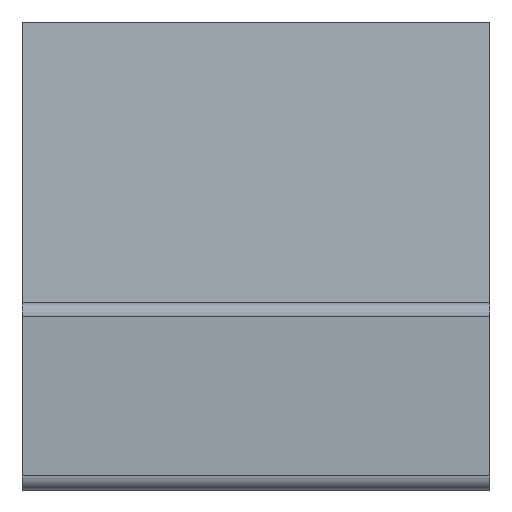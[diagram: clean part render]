
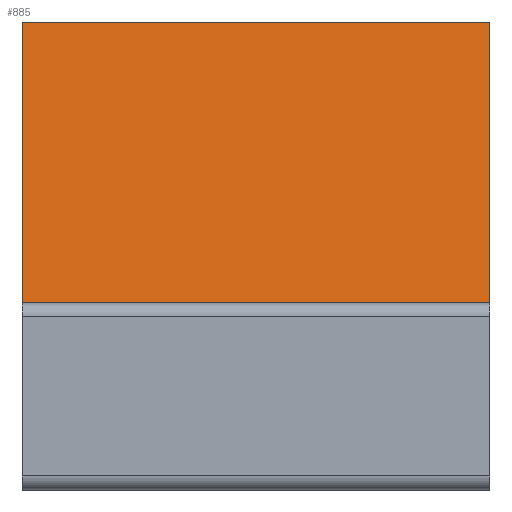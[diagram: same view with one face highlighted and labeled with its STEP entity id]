
A CAD part, left-side view. The second image highlights one B-rep face of the part: STEP entity #885.
In plain terms, the highlighted planar face has unit normal (-0.994, 0, 0.11).
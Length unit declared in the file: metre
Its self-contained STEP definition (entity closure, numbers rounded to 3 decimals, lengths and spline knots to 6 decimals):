
#238=ORIENTED_EDGE('',*,*,#388,.T.);
#239=ORIENTED_EDGE('',*,*,#389,.T.);
#240=ORIENTED_EDGE('',*,*,#376,.F.);
#241=ORIENTED_EDGE('',*,*,#373,.T.);
#242=ORIENTED_EDGE('',*,*,#375,.F.);
#243=ORIENTED_EDGE('',*,*,#385,.F.);
#373=EDGE_CURVE('',#402,#397,#554,.T.);
#375=EDGE_CURVE('',#463,#397,#556,.T.);
#376=EDGE_CURVE('',#402,#464,#557,.T.);
#385=EDGE_CURVE('',#468,#463,#566,.T.);
#388=EDGE_CURVE('',#468,#469,#569,.T.);
#389=EDGE_CURVE('',#469,#464,#570,.T.);
#397=VERTEX_POINT('',#1453);
#402=VERTEX_POINT('',#1467);
#463=VERTEX_POINT('',#1648);
#464=VERTEX_POINT('',#1652);
#468=VERTEX_POINT('',#1668);
#469=VERTEX_POINT('',#1675);
#554=LINE('',#1645,#657);
#556=LINE('',#1649,#659);
#557=LINE('',#1651,#660);
#566=LINE('',#1669,#669);
#569=LINE('',#1674,#672);
#570=LINE('',#1676,#673);
#657=VECTOR('',#1400,1.);
#659=VECTOR('',#1404,1.);
#660=VECTOR('',#1407,1.);
#669=VECTOR('',#1424,1.);
#672=VECTOR('',#1431,1.);
#673=VECTOR('',#1432,1.);
#718=EDGE_LOOP('',(#238,#239,#240,#241,#242,#243));
#763=FACE_BOUND('',#718,.T.);
#799=PLANE('',#1213);
#885=ADVANCED_FACE('',(#763),#799,.T.);
#1213=AXIS2_PLACEMENT_3D('',#1673,#1429,#1430);
#1400=DIRECTION('',(0.,-1.,0.));
#1404=DIRECTION('',(0.,1.,0.));
#1407=DIRECTION('',(0.,1.,0.));
#1424=DIRECTION('',(-0.11,0.,-0.994));
#1429=DIRECTION('',(-0.994,0.,0.11));
#1430=DIRECTION('',(-0.11,0.,-0.994));
#1431=DIRECTION('',(0.,1.,0.));
#1432=DIRECTION('',(-0.11,0.,-0.994));
#1453=CARTESIAN_POINT('',(0.17885,-0.114688,0.001779));
#1467=CARTESIAN_POINT('',(0.17885,-0.114313,0.001779));
#1645=CARTESIAN_POINT('',(0.17885,-0.11425,0.001778));
#1648=CARTESIAN_POINT('',(0.17885,-0.11475,0.00178));
#1649=CARTESIAN_POINT('',(0.17885,-0.11475,0.00178));
#1651=CARTESIAN_POINT('',(0.17885,-0.11475,0.00178));
#1652=CARTESIAN_POINT('',(0.17885,-0.11425,0.00178));
#1668=CARTESIAN_POINT('',(0.178885,-0.11475,0.002095));
#1669=CARTESIAN_POINT('',(0.178842,-0.11475,0.001704));
#1673=CARTESIAN_POINT('',(0.178885,-0.11475,0.002095));
#1674=CARTESIAN_POINT('',(0.178885,-0.11475,0.002095));
#1675=CARTESIAN_POINT('',(0.178885,-0.11425,0.002095));
#1676=CARTESIAN_POINT('',(0.178842,-0.11425,0.001704));
